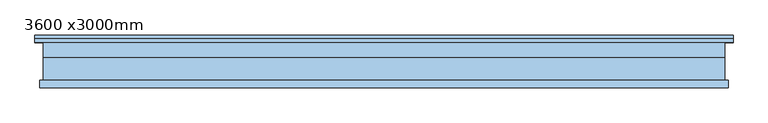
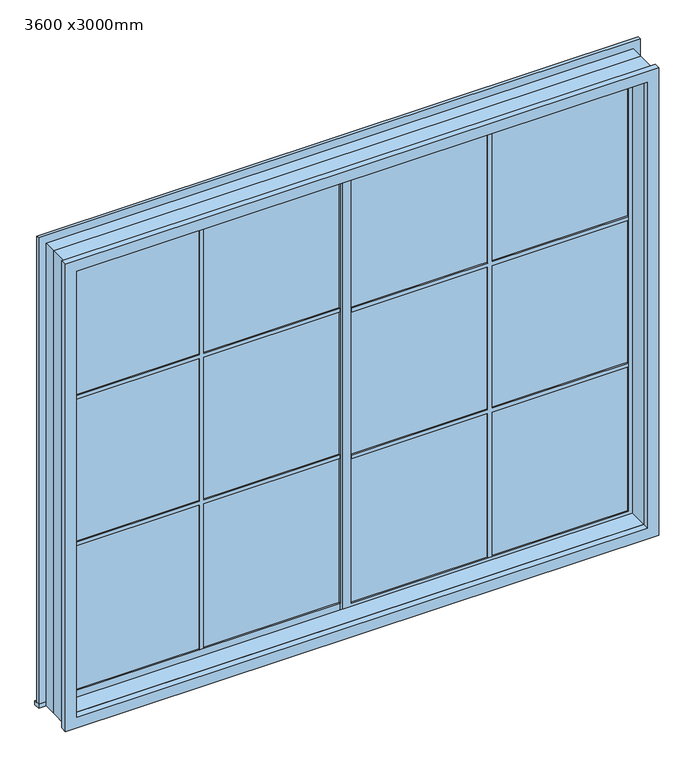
"""IFC4 building model written with IfcOpenShell, lengths in millimetres: window geometry, 推拉窗1 - 带贴面 : 3600 x3000mm."""

from ifc_helpers import new_model, si_unit, frame, origin, place, context, project, spatial, polyline, outline, extrude, source, transform, mapped, element, save


def window_3600_x3000mm_248adb31(model_context):
    return source(origin(), model_context, "Body", "SweptSolid", [
        extrude(outline(polyline([(-1715.475, 3.1265625), (-15.475, 3.1265625), (-15.475, -6.8734375), (-1715.475, -6.8734375), (-1715.475, 3.1265625)])), frame((0.0, 0.0, 975.0), z_axis=(0.0, 0.0, 1.0), x_axis=(1.0, 0.0, 0.0)), (0.0, 0.0, 1.0), 2850.0),
        extrude(outline(polyline([(34.525, -26.8734375), (1734.525, -26.8734375), (1734.525, -36.8734375), (34.525, -36.8734375), (34.525, -26.8734375)])), frame((0.0, 0.0, 975.0), z_axis=(0.0, 0.0, 1.0), x_axis=(1.0, 0.0, 0.0)), (0.0, 0.0, 1.0), 2850.0),
        extrude(outline(polyline([(2863.05, 873.525), (1935.05, 873.525), (1935.05, 34.525), (1913.05, 34.525), (1913.05, 873.525), (975.0, 873.525), (975.0, 895.525), (1913.05, 895.525), (1913.05, 1734.525), (1936.95, 1734.525), (1936.95, 895.525), (2863.05, 895.525), (2863.05, 1734.525), (2886.95, 1734.525), (2886.95, 895.525), (3825.0, 895.525), (3825.0, 873.525), (2886.95, 873.525), (2886.95, 34.525), (2863.05, 34.525), (2863.05, 873.525)])), frame((0.0, -46.8734375, 0.0), z_axis=(0.0, 1.0, 0.0), x_axis=(0.0, 0.0, 1.0)), (0.0, 0.0, 1.0), 30.0),
        extrude(outline(polyline([(3900.0, -1790.475), (900.0, -1790.475), (900.0, 1809.525), (3900.0, 1809.525), (3900.0, -1790.475)]), holes=[polyline([(3845.0, 1759.525), (955.0, 1759.525), (955.0, -1740.475), (3845.0, -1740.475), (3845.0, 1759.525)])]), frame((0.0, -166.8734375, 0.0), z_axis=(0.0, 1.0, 0.0), x_axis=(0.0, 0.0, 1.0)), (0.0, 0.0, 1.0), 120.0),
        extrude(outline(polyline([(975.0, -854.3625), (1913.8875, -854.3625), (1913.8875, -15.475), (1936.1125, -15.475), (1936.1125, -854.3625), (2863.8875, -854.3625), (2863.8875, -15.475), (2886.1125, -15.475), (2886.1125, -854.3625), (3825.0, -854.3625), (3825.0, -876.5875), (2886.1125, -876.5875), (2886.1125, -1715.475), (2863.8875, -1715.475), (2863.8875, -876.5875), (1936.1125, -876.5875), (1936.1125, -1715.475), (1913.8875, -1715.475), (1913.8875, -876.5875), (975.0, -876.5875), (975.0, -854.3625)])), frame((0.0, -16.8734375, 0.0), z_axis=(0.0, 1.0, 0.0), x_axis=(0.0, 0.0, 1.0)), (0.0, 0.0, 1.0), 30.0),
        extrude(outline(polyline([(925.0, 34.525), (3875.0, 34.525), (3875.0, -1765.475), (925.0, -1765.475), (925.0, 34.525)]), holes=[polyline([(975.0, -15.475), (975.0, -1715.475), (3825.0, -1715.475), (3825.0, -15.475), (975.0, -15.475)])]), frame((0.0, -16.8734375, 0.0), z_axis=(0.0, 1.0, 0.0), x_axis=(0.0, 0.0, 1.0)), (0.0, 0.0, 1.0), 30.0),
        extrude(outline(polyline([(3875.0, -15.475), (925.0, -15.475), (925.0, 1784.525), (3875.0, 1784.525), (3875.0, -15.475)]), holes=[polyline([(3825.0, 34.525), (3825.0, 1734.525), (975.0, 1734.525), (975.0, 34.525), (3825.0, 34.525)])]), frame((0.0, -46.8734375, 0.0), z_axis=(0.0, 1.0, 0.0), x_axis=(0.0, 0.0, 1.0)), (0.0, 0.0, 1.0), 30.0),
        extrude(outline(polyline([(3900.0, -1790.475), (900.0, -1790.475), (900.0, 1809.525), (3900.0, 1809.525), (3900.0, -1790.475)]), holes=[polyline([(925.0, -1765.475), (3875.0, -1765.475), (3875.0, 1784.525), (925.0, 1784.525), (925.0, -1765.475)])]), frame((0.0, -46.8734375, 0.0), z_axis=(0.0, 1.0, 0.0), x_axis=(0.0, 0.0, 1.0)), (0.0, 0.0, 1.0), 80.0),
        extrude(outline(polyline([(3915.0, -1810.475), (885.0, -1810.475), (885.0, 1829.525), (3915.0, 1829.525), (3915.0, -1810.475)]), holes=[polyline([(955.0, 1759.525), (955.0, -1740.475), (3845.0, -1740.475), (3845.0, 1759.525), (955.0, 1759.525)])]), frame((0.0, -206.8734375, 0.0), z_axis=(0.0, 1.0, 0.0), x_axis=(0.0, 0.0, 1.0)), (0.0, 0.0, 1.0), 40.0),
        extrude(outline(polyline([(-1835.475, 73.1265625), (1854.525, 73.1265625), (1854.525, 33.1265625), (-1835.475, 33.1265625), (-1835.475, 73.1265625)])), frame((0.0, 0.0, 900.0), z_axis=(0.0, 0.0, 1.0), x_axis=(1.0, 0.0, 0.0)), (0.0, 0.0, 1.0), 25.0),
        extrude(outline(polyline([(925.0, 1854.525), (3950.0, 1854.525), (3950.0, -1835.475), (925.0, -1835.475), (925.0, -1765.475), (3875.0, -1765.475), (3875.0, 1784.525), (925.0, 1784.525), (925.0, 1854.525)])), frame((0.0, 33.1265625, 0.0), z_axis=(0.0, 1.0, 0.0), x_axis=(0.0, 0.0, 1.0)), (0.0, 0.0, 1.0), 20.0),
    ])


if __name__ == "__main__":
    model = new_model("IFC4")
    model_context = context("Model", 3, world=origin())
    ifc_project = project(units=[si_unit("LENGTHUNIT", "METRE", prefix="MILLI")], contexts=[model_context])
    site = spatial("IfcSite", under=ifc_project)
    building = spatial("IfcBuilding", under=site)
    placement = place(None, origin())
    window_3600_x3000mm_shape = window_3600_x3000mm_248adb31(model_context)
    element("IfcWindow", 1, ObjectType="推拉窗1 - 带贴面 : 3600 x3000mm", at=placement, inside=building, context=model_context, shape_type="MappedRepresentation", body=[
        mapped(window_3600_x3000mm_shape, transform((0.0, 0.0, 0.0), x_axis=(1.0, 0.0, 0.0), y_axis=(0.0, 1.0, 0.0), z_axis=(0.0, 0.0, 1.0))),
    ])
    save(model, "model.ifc")
